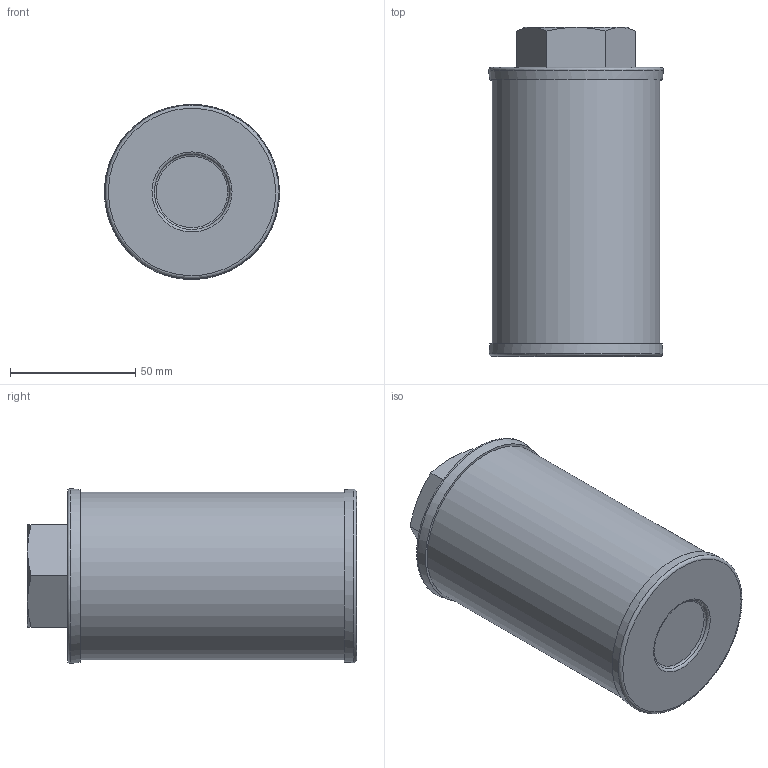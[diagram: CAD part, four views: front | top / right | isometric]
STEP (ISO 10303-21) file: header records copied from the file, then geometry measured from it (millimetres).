
FILE_DESCRIPTION((''),'2;1');
FILE_NAME('U:\Users\t.schleuter\Saugfilter14532300(275462).stp', '2013-04-15T15:59:36',('User'),('SDRC'),'I-DEAS Master Series 9','UNIX', 'Yes');
FILE_SCHEMA(('AUTOMOTIVE_DESIGN { 1 0 10303 214 1 1 1 1 }'));
Length unit declared in the file: millimetre
Products named in the file (1): 14532300(275462)
Bounding box: 69.97 x 131.5 x 69.93 mm (x, y, z)
Volume: 424294.3 mm3; surface area: 35954.6 mm2
Topology: 1 solids, 1 shells, 31 faces, 66 edges, 43 vertices
Faces by surface type: bspline 31
Entity records: 1058 total; most frequent: CARTESIAN_POINT 614, ORIENTED_EDGE 128, EDGE_CURVE 64, VERTEX_POINT 41, EDGE_LOOP 37, FACE_OUTER_BOUND 31, ADVANCED_FACE 31, B_SPLINE_CURVE_WITH_KNOTS 16
